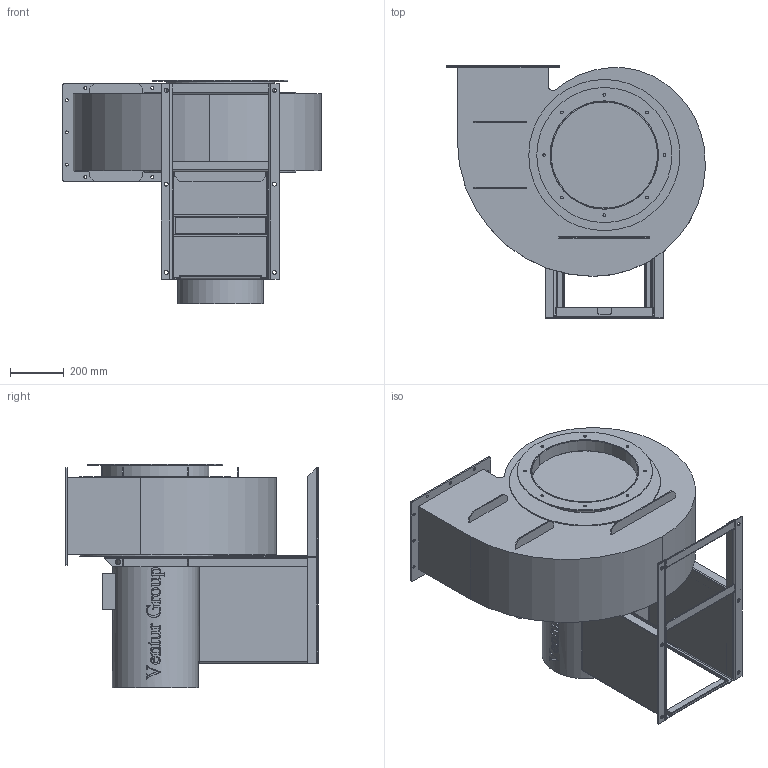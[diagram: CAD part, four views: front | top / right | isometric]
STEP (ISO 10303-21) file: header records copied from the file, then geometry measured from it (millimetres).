
FILE_DESCRIPTION(/* description */ (''),/* implementation_level */ '2;1');
FILE_NAME(/* name */ 'C:\Users\mateusz.talik.VENTURE\Desktop\DESIGNER\GMT\1200\GMT_1200_1500T_LG0_43551910.stp',/* time_stamp */ '2016-05-10T11:42:44+02:00',/* author */ ('mateusz.talik'),/* organization */ (''),/* preprocessor_version */ 'ST-DEVELOPER v16.1',/* originating_system */ 'Autodesk Inventor 2016',/* authorisation */ '');
FILE_SCHEMA (('AUTOMOTIVE_DESIGN { 1 0 10303 214 3 1 1 }'));
Length unit declared in the file: centimetre
Products named in the file (1): GMT_1200_1500T_LG0_43551910
Bounding box: 966.82 x 945 x 837 mm (x, y, z)
Volume: 218157886.9 mm3; surface area: 4991444 mm2
Topology: 5 solids, 5 shells, 923 faces, 2568 edges, 1692 vertices
Faces by surface type: bspline 444, plane 325, cylinder 154
Full cylindrical faces by diameter (mm): 10 x8, 11.1 x12, 15 x6, 20 x2, 320 x1, 405 x1, 505 x1, 565 x2
Entity records: 38974 total; most frequent: CARTESIAN_POINT 17666, ORIENTED_EDGE 5070, DIRECTION 2941, EDGE_CURVE 2534, VERTEX_POINT 1690, LINE 1311, VECTOR 1311, EDGE_LOOP 1063
